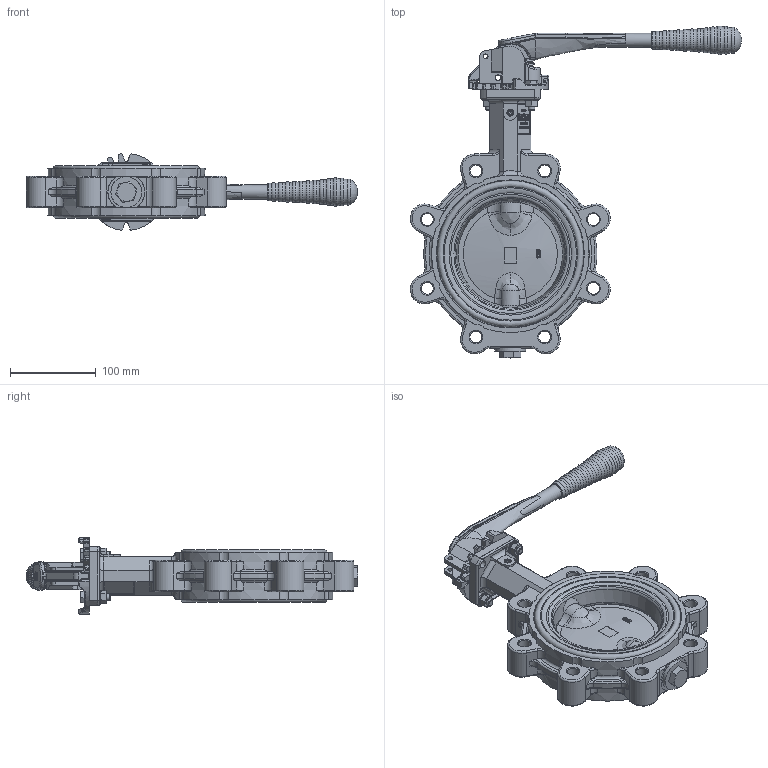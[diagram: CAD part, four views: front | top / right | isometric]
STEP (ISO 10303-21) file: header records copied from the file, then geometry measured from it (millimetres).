
FILE_DESCRIPTION((''),'2;1');
FILE_NAME('K:\Inventor\1 Artikel\10) Absperrklappen\10a) manuell\ABO Valve\894-GGG, 994T\894-GGG, DN125\894-GGG, DN125, 3D\894-GGG, DN125, PN10-16, HH, 3D.stp','2019-08-13T11:41:13',('claudia'),(''),'Autodesk Inventor 2013','Autodesk Inventor 2013','');
FILE_SCHEMA(('AUTOMOTIVE_DESIGN { 1 0 10303 214 1 1 1 1 }'));
Length unit declared in the file: millimetre
Products named in the file (1): Bauteil12
Bounding box: 386.93 x 387.75 x 89.17 mm (x, y, z)
Volume: 2596.7 mm3; surface area: 237681.7 mm2
Topology: 9 solids, 10 shells, 2049 faces, 5431 edges, 3449 vertices
Faces by surface type: plane 787, bspline 574, cylinder 385, torus 179, cone 111, sphere 13
Full cylindrical faces by diameter (mm): 5.5 x2, 6.3 x2, 6.5 x2, 7 x2, 8 x4, 9 x4, 9.5 x1, 13 x2, 14 x8, 16 x2, 16.5 x2, 20.5 x1, 22 x1, 22.5 x1, 36 x1, 56 x1, 171 x2, 173 x2
Entity records: 85041 total; most frequent: CARTESIAN_POINT 36893, ORIENTED_EDGE 10530, DIRECTION 7955, EDGE_CURVE 5267, VERTEX_POINT 3412, AXIS2_PLACEMENT_3D 2806, VECTOR 2343, LINE 2343
